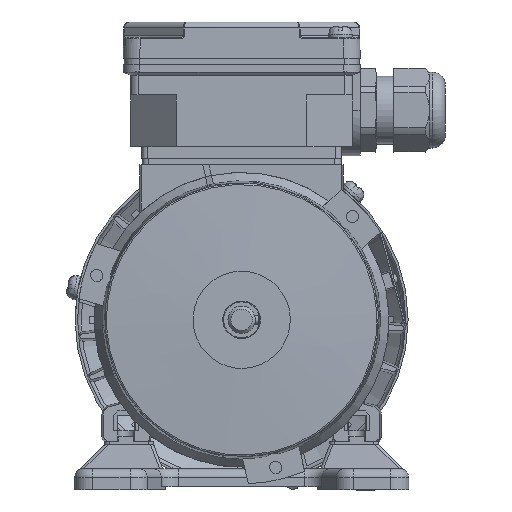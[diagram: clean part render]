
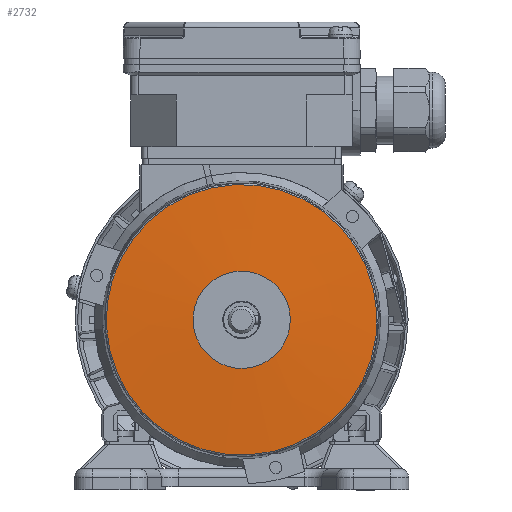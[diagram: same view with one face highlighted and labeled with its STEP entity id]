
A CAD part, left-side view. The second image highlights one B-rep face of the part: STEP entity #2732.
In plain terms, the highlighted conical face has half-angle 87.039 degrees and reference radius 16 mm.
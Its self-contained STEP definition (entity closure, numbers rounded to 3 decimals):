
#2732 = ADVANCED_FACE( '', ( #6542, #6543 ), #6544, .T. );
#6542 = FACE_OUTER_BOUND( '', #12469, .T. );
#6543 = FACE_BOUND( '', #12470, .T. );
#6544 = CONICAL_SURFACE( '', #12471, 16., 1.519 );
#12469 = EDGE_LOOP( '', ( #23252 ) );
#12470 = EDGE_LOOP( '', ( #23253 ) );
#12471 = AXIS2_PLACEMENT_3D( '', #23254, #23255, #23256 );
#23252 = ORIENTED_EDGE( '', *, *, #38137, .T. );
#23253 = ORIENTED_EDGE( '', *, *, #37810, .F. );
#23254 = CARTESIAN_POINT( '', ( 0., 1., 0. ) );
#23255 = DIRECTION( '', ( 0., 1., 0. ) );
#23256 = DIRECTION( '', ( 0., 0., 1. ) );
#37810 = EDGE_CURVE( '', #44451, #44451, #44452, .T. );
#38137 = EDGE_CURVE( '', #45024, #45024, #45025, .T. );
#44451 = VERTEX_POINT( '', #54964 );
#44452 = CIRCLE( '', #54965, 16. );
#45024 = VERTEX_POINT( '', #55950 );
#45025 = CIRCLE( '', #55951, 44.539 );
#54964 = CARTESIAN_POINT( '', ( 0., 1., -16. ) );
#54965 = AXIS2_PLACEMENT_3D( '', #71210, #71211, #71212 );
#55950 = CARTESIAN_POINT( '', ( 0., 2.476, -44.539 ) );
#55951 = AXIS2_PLACEMENT_3D( '', #71657, #71658, #71659 );
#71210 = CARTESIAN_POINT( '', ( 0., 1., 0. ) );
#71211 = DIRECTION( '', ( 0., -1., 0. ) );
#71212 = DIRECTION( '', ( 0., 0., -1. ) );
#71657 = CARTESIAN_POINT( '', ( 0., 2.476, 0. ) );
#71658 = DIRECTION( '', ( 0., -1., 0. ) );
#71659 = DIRECTION( '', ( 0., 0., -1. ) );
